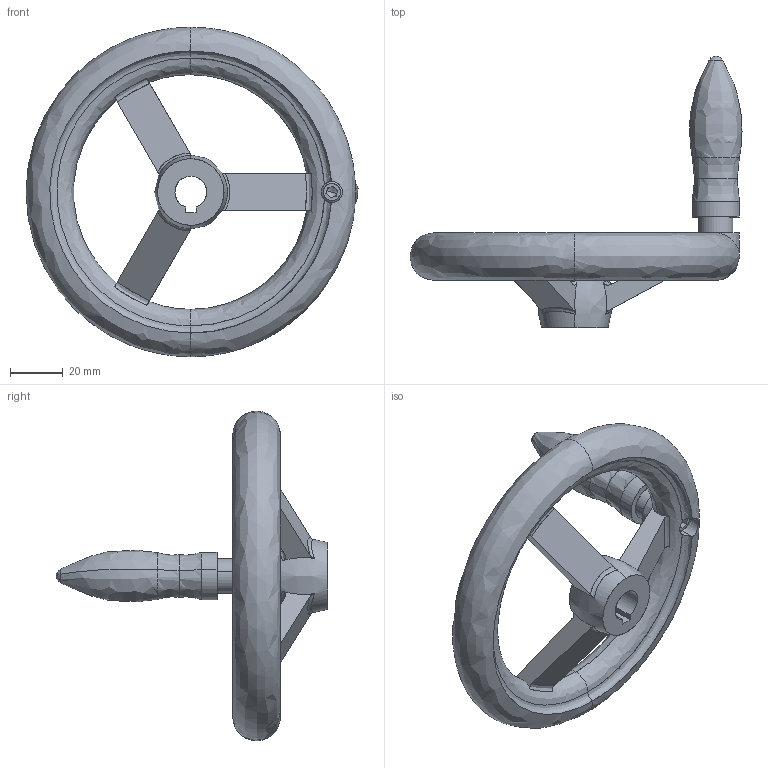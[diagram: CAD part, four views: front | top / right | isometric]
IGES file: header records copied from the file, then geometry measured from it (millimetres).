
Start section: SolidWorks IGES file using analytic representation for surfaces
Global section: file name: C:\Users\IanO\Desktop\Temp File\Process pending\77120_v2\77120_v2_20171108_IGES\77120.W0310.igs; native system: SolidWorks 2017; preprocessor: SolidWorks 2017; author: IanO; date: 171108.083512; units: millimetre
Bounding box: 125.92 x 103 x 125 mm (x, y, z)
Surface area: 33845.9 mm2 (no closed solid volume)
Topology: 0 solids, 0 shells, 146 faces, 1829 edges, 1820 vertices
Faces by surface type: bspline 85, revolution 61
